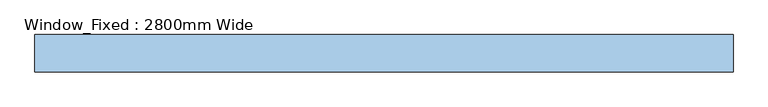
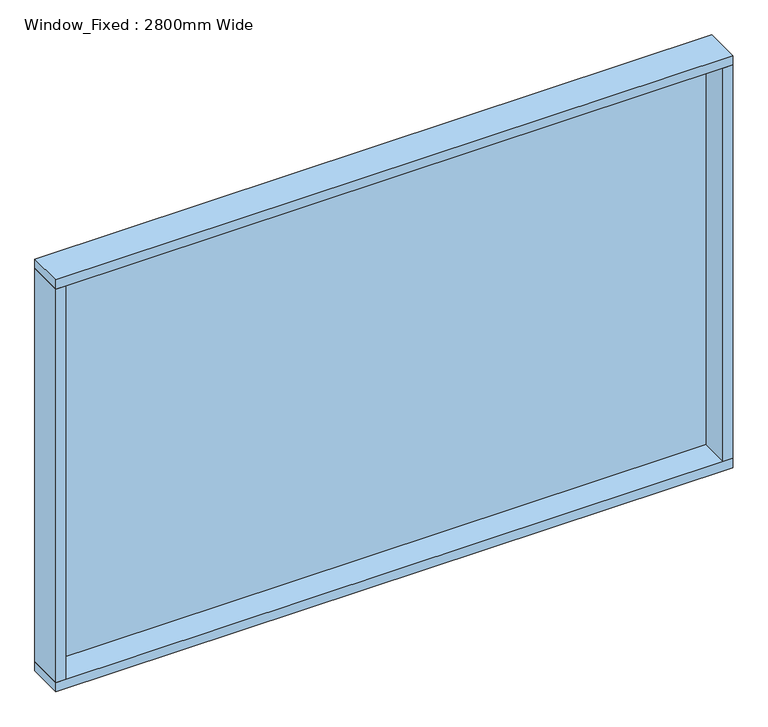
"""IFC4 building model written with IfcOpenShell, lengths in millimetres: window geometry, Window_Fixed : 2800mm Wide."""

import ifcopenshell
import ifcopenshell.guid

model = None  # the IFC model being written
_history = None  # IfcOwnerHistory: only IFC2X3 demands one
_inside = {}  # id of a spatial element -> (the spatial element, [elements in it])
_under = {}  # id of a project, library or spatial element -> (it, [spatial elements below it])
_declared = {}  # id of a project -> (the project, [libraries it declares])
_typed = {}  # id of a type object -> (the type object, [elements of that type])
_made_of = {}  # id of a material, layer set ... -> (it, [elements and type objects made of it])


def new_model(schema):
    """Start an empty IFC model of exactly this schema.

    Asked for "IFC4X3", IfcOpenShell would pick the latest addendum, in which some entities
    have other attributes; the version numbers below select the first issue.
    IFC2X3 requires an IfcOwnerHistory on every rooted entity: one is made here for all.
    """
    global model, _history
    if schema == "IFC4X3":
        model = ifcopenshell.file(schema_version=(4, 3, 0, 0))
    else:
        model = ifcopenshell.file(schema=schema)
    _inside.clear()
    _under.clear()
    _declared.clear()
    _typed.clear()
    _made_of.clear()
    _history = None
    if model.schema == "IFC2X3":
        org = make("IfcOrganization", Name="unknown")
        user = make(
            "IfcPersonAndOrganization",
            ThePerson=make("IfcPerson", FamilyName="unknown"),
            TheOrganization=org,
        )
        app = make(
            "IfcApplication",
            ApplicationDeveloper=org,
            Version="unknown",
            ApplicationFullName="unknown",
            ApplicationIdentifier="unknown",
        )
        _history = make(
            "IfcOwnerHistory",
            OwningUser=user,
            OwningApplication=app,
            ChangeAction="ADDED",
            CreationDate=0,
        )
    return model


def make(cls, **values):
    """One entity of the class cls with the attributes given. An attribute that is None is left unset."""
    return model.create_entity(
        cls, **{name: value for name, value in values.items() if value is not None}
    )


def rooted(cls, **values):
    """An entity with a GlobalId (a new one), such as an element, a storey or a relation."""
    return make(cls, GlobalId=ifcopenshell.guid.new(), OwnerHistory=_history, **values)


def si_unit(unit_type, name, prefix=None):
    """IfcSIUnit, for example si_unit("LENGTHUNIT", "METRE", prefix="MILLI")."""
    return make("IfcSIUnit", UnitType=unit_type, Prefix=prefix, Name=name)


def assignment(units):
    """IfcUnitAssignment: the units of a project."""
    return None if units is None else make("IfcUnitAssignment", Units=units)


def point(xyz):
    """IfcCartesianPoint."""
    return None if xyz is None else make("IfcCartesianPoint", Coordinates=xyz)


def direction(xyz):
    """IfcDirection."""
    return None if xyz is None else make("IfcDirection", DirectionRatios=xyz)


def frame(location, z_axis=None, x_axis=None):
    """IfcAxis2Placement3D, a coordinate frame: its origin and axes. An axis left out is left unset."""
    return make(
        "IfcAxis2Placement3D",
        Location=point(location),
        Axis=direction(z_axis),
        RefDirection=direction(x_axis),
    )


def origin():
    """The frame at (0, 0, 0) with its axes left unset."""
    return frame((0.0, 0.0, 0.0))


def place(relative_to, where):
    """IfcLocalPlacement: puts the frame where relative to a parent placement (None: the world)."""
    return make(
        "IfcLocalPlacement", PlacementRelTo=relative_to, RelativePlacement=where
    )


def context(
    kind, dimensions, precision=None, world=None, true_north=None, identifier=None
):
    """IfcGeometricRepresentationContext, for example the 3D "Model" context."""
    return make(
        "IfcGeometricRepresentationContext",
        ContextIdentifier=identifier,
        ContextType=kind,
        CoordinateSpaceDimension=dimensions,
        Precision=precision,
        WorldCoordinateSystem=world,
        TrueNorth=true_north,
    )


def project(units=None, contexts=None):
    """IfcProject with its units and contexts."""
    return rooted(
        "IfcProject",
        Name="project",
        RepresentationContexts=contexts,
        UnitsInContext=assignment(units),
    )


def spatial(cls, under=None, at=None, **own):
    """A site, building, storey or space (cls), placed at a placement, below another one or the project."""
    s = rooted(cls, ObjectPlacement=at, **own)
    if under is not None:
        _under.setdefault(under.id(), (under, []))[1].append(s)
    return s


def polyline(points):
    """IfcPolyline through the points."""
    return make("IfcPolyline", Points=[point(p) for p in points])


def outline(outer, holes=None, kind="AREA"):
    """IfcArbitraryClosedProfileDef: a profile drawn as a closed curve; with holes, ...WithVoids."""
    if holes is None:
        return make("IfcArbitraryClosedProfileDef", ProfileType=kind, OuterCurve=outer)
    return make(
        "IfcArbitraryProfileDefWithVoids",
        ProfileType=kind,
        OuterCurve=outer,
        InnerCurves=holes,
    )


def extrude(swept, where, along, depth):
    """IfcExtrudedAreaSolid: the profile swept, set in the frame where, extruded along a direction by depth."""
    return make(
        "IfcExtrudedAreaSolid",
        SweptArea=swept,
        Position=where,
        ExtrudedDirection=direction(along),
        Depth=depth,
    )


def shape(context_of_items, identifier, shape_type, items):
    """IfcShapeRepresentation: the items that make up one representation, for example the "Body"."""
    return make(
        "IfcShapeRepresentation",
        ContextOfItems=context_of_items,
        RepresentationIdentifier=identifier,
        RepresentationType=shape_type,
        Items=items,
    )


def source(mapping_origin, context_of_items, identifier, shape_type, items):
    """IfcRepresentationMap: a shape defined once, which mapped items show again and again."""
    return make(
        "IfcRepresentationMap",
        MappingOrigin=mapping_origin,
        MappedRepresentation=shape(context_of_items, identifier, shape_type, items),
    )


def transform(
    local_origin,
    x_axis=None,
    y_axis=None,
    z_axis=None,
    scale=None,
    scale2=None,
    scale3=None,
    uniform=True,
):
    """IfcCartesianTransformationOperator3D, or its non-uniform kind. x_axis, y_axis, z_axis: its Axis1, 2, 3."""
    if uniform:
        return make(
            "IfcCartesianTransformationOperator3D",
            Axis1=direction(x_axis),
            Axis2=direction(y_axis),
            LocalOrigin=point(local_origin),
            Scale=scale,
            Axis3=direction(z_axis),
        )
    return make(
        "IfcCartesianTransformationOperator3DnonUniform",
        Axis1=direction(x_axis),
        Axis2=direction(y_axis),
        LocalOrigin=point(local_origin),
        Scale=scale,
        Axis3=direction(z_axis),
        Scale2=scale2,
        Scale3=scale3,
    )


def mapped(mapping_source, mapping_target):
    """IfcMappedItem: shows the shape of a source again, moved by a transform."""
    return make(
        "IfcMappedItem", MappingSource=mapping_source, MappingTarget=mapping_target
    )


def made_of(thing, what):
    """Note that an element or type object is made of a material, layer set ...; save() writes the relation."""
    if what is not None:
        _made_of.setdefault(what.id(), (what, []))[1].append(thing)
    return thing


def element(
    cls,
    number,
    at=None,
    inside=None,
    cuts=None,
    type_object=None,
    material=None,
    context=None,
    identifier="Body",
    shape_type=None,
    held_by="IfcProductDefinitionShape",
    body=None,
    shapes=None,
    **own,
):
    """One element of the class cls, such as IfcWall. Its Tag is "e" and its number.

    at: its placement. inside: the storey or other place that contains it. cuts: it is an
    opening in that element (IfcRelVoidsElement). A single representation is given by context,
    identifier, shape_type and body (its items); several are given by shapes. held_by: the class
    of the entity that holds the representations. save() writes the other relations.
    """
    e = rooted(cls, Tag="e%d" % number, ObjectPlacement=at, **own)
    if body is not None:
        shapes = [shape(context, identifier, shape_type, body)]
    if shapes is not None:
        e.Representation = make(held_by, Representations=shapes)
    if inside is not None:
        _inside.setdefault(inside.id(), (inside, []))[1].append(e)
    if cuts is not None:
        rooted(
            "IfcRelVoidsElement", RelatingBuildingElement=cuts, RelatedOpeningElement=e
        )
    if type_object is not None:
        _typed.setdefault(type_object.id(), (type_object, []))[1].append(e)
    return made_of(e, material)


def aggregate(whole, parts):
    """IfcRelAggregates: a whole, such as a stair, and the parts it consists of."""
    return rooted("IfcRelAggregates", RelatingObject=whole, RelatedObjects=parts)


def save(model, path):
    """Write the relations noted so far, then the file.

    IfcRelAggregates (storeys below a building ...), IfcRelContainedInSpatialStructure (elements
    in a storey), IfcRelDefinesByType, IfcRelAssociatesMaterial and IfcRelDeclares: one each for
    every whole, place, type object, material and project.
    """
    for whole, parts in _under.values():
        aggregate(whole, parts)
    for where, things in _inside.values():
        rooted(
            "IfcRelContainedInSpatialStructure",
            RelatedElements=things,
            RelatingStructure=where,
        )
    for kind, things in _typed.values():
        rooted("IfcRelDefinesByType", RelatedObjects=things, RelatingType=kind)
    for what, things in _made_of.values():
        rooted("IfcRelAssociatesMaterial", RelatedObjects=things, RelatingMaterial=what)
    for by, libraries in _declared.values():
        rooted("IfcRelDeclares", RelatingContext=by, RelatedDefinitions=libraries)
    model.write(path)


def window_fixed_2800mm_wide_467ea3d1(model_context):
    return source(origin(), model_context, "Body", "SweptSolid", [
        extrude(outline(polyline([(1360.0, 120.0), (1360.0, 108.0), (-1360.0, 108.0), (-1360.0, 120.0), (1360.0, 120.0)])), frame((0.0, 0.0, 290.0), z_axis=(0.0, 0.0, 1.0), x_axis=(1.0, 0.0, 0.0)), (0.0, 0.0, 1.0), 1720.0),
        extrude(outline(polyline([(1400.0, 135.0), (1400.0, -15.0), (-1400.0, -15.0), (-1400.0, 135.0), (1400.0, 135.0)])), frame((0.0, 0.0, 2010.0), z_axis=(0.0, 0.0, 1.0), x_axis=(1.0, 0.0, 0.0)), (0.0, 0.0, 1.0), 40.0),
        extrude(outline(polyline([(1400.0, 135.0), (1400.0, -15.0), (-1400.0, -15.0), (-1400.0, 135.0), (1400.0, 135.0)])), frame((0.0, 0.0, 250.0), z_axis=(0.0, 0.0, 1.0), x_axis=(1.0, 0.0, 0.0)), (0.0, 0.0, 1.0), 40.0),
        extrude(outline(polyline([(-1360.0, -15.0), (-1400.0, -15.0), (-1400.0, 135.0), (-1360.0, 135.0), (-1360.0, -15.0)])), frame((0.0, 0.0, 290.0), z_axis=(0.0, 0.0, 1.0), x_axis=(1.0, 0.0, 0.0)), (0.0, 0.0, 1.0), 1720.0),
        extrude(outline(polyline([(1360.0, -15.0), (1360.0, 135.0), (1400.0, 135.0), (1400.0, -15.0), (1360.0, -15.0)])), frame((0.0, 0.0, 290.0), z_axis=(0.0, 0.0, 1.0), x_axis=(1.0, 0.0, 0.0)), (0.0, 0.0, 1.0), 1720.0),
    ])


if __name__ == "__main__":
    model = new_model("IFC4")
    model_context = context("Model", 3, world=origin())
    ifc_project = project(units=[si_unit("LENGTHUNIT", "METRE", prefix="MILLI")], contexts=[model_context])
    site = spatial("IfcSite", under=ifc_project)
    building = spatial("IfcBuilding", under=site)
    placement = place(None, origin())
    window_fixed_2800mm_wide_shape = window_fixed_2800mm_wide_467ea3d1(model_context)
    element("IfcWindow", 1, ObjectType="Window_Fixed : 2800mm Wide", at=placement, inside=building, context=model_context, shape_type="MappedRepresentation", body=[
        mapped(window_fixed_2800mm_wide_shape, transform((0.0, 0.0, 0.0), x_axis=(1.0, 0.0, 0.0), y_axis=(0.0, 1.0, 0.0), z_axis=(0.0, 0.0, 1.0))),
    ])
    save(model, "model.ifc")
